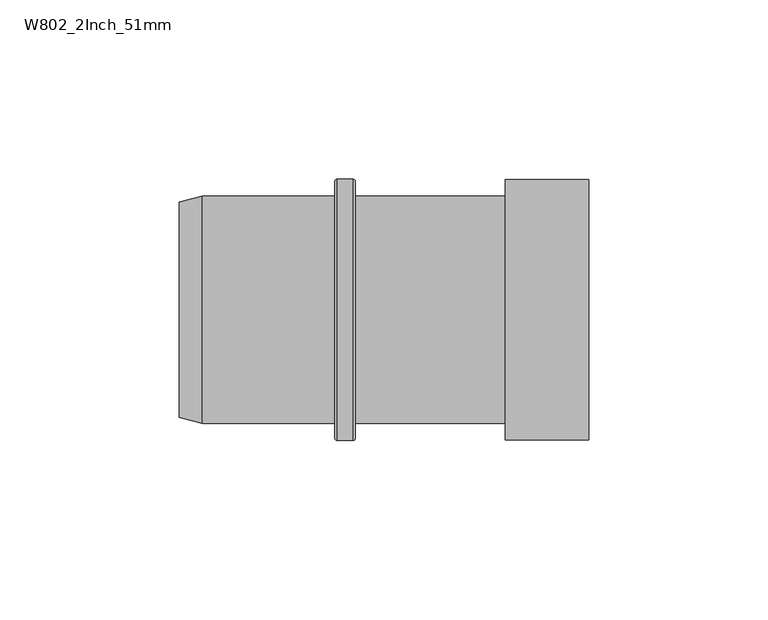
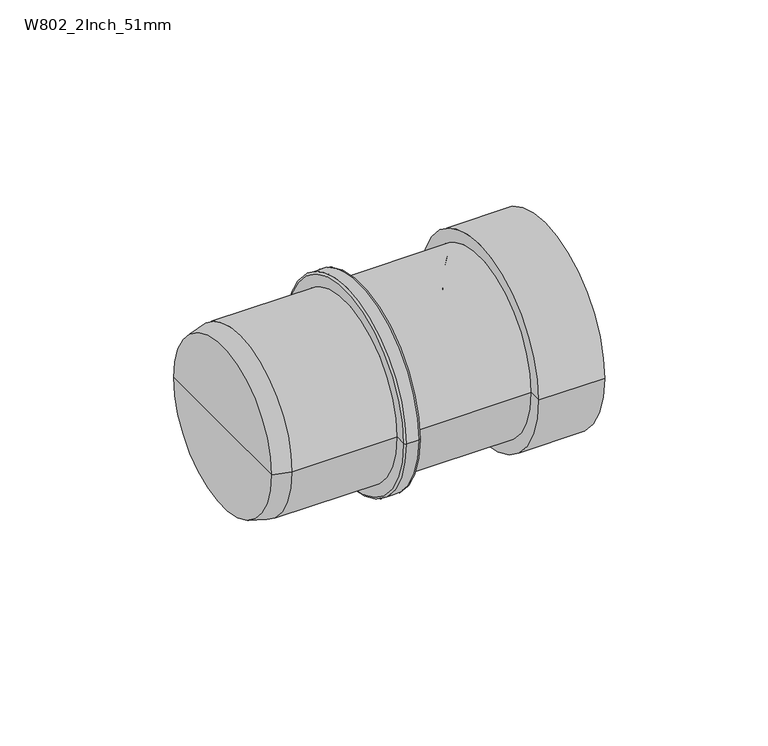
"""IFC4 building model written with IfcOpenShell, lengths in millimetres: pipe fitting geometry, Durapipe_PipeFitting_VulcatheneMechanical_HorizontalVerticalStressRelifUnit_W80 : W802_2Inch_51mm."""

from ifc_helpers import new_model, si_unit, point, frame, origin, place, context, project, spatial, polyline, circle_curve, ellipse_curve, trimmed, source, transform, mapped, element, save
from ifc_brep_helpers import plane_surface, cylinder_surface, revolved_surface, advanced_brep


def w802_2inch_51mm_177d126d(model_context):
    return source(origin(), model_context, "Body", "AdvancedBrep", [
        advanced_brep(
        [(70.6, -25.5522689, 0.0), (70.6, 35.7402689, 0.0), (70.6, 5.094, 0.0), (71.3319682, -26.2842371, 0.0), (71.3319682, 36.4722371, 0.0), (89.0, -26.2842371, 0.0), (89.0, 36.4722371, 0.0), (89.0, -31.2061121, 0.0), (89.0, 41.3941121, 0.0), (65.775, -31.2061121, 0.0), (65.775, 41.3941121, 0.0), (65.775, -26.656, 0.0), (65.775, 36.844, 0.0), (23.91875, -26.656, 0.0), (23.91875, 36.844, 0.0), (23.91875, -30.7449687, 0.0), (23.91875, 40.9329687, 0.0), (23.3115245, -31.3521942, 0.0), (23.3115245, 41.5401942, 0.0), (18.900197, -31.3521942, 0.0), (18.900197, 41.5401942, 0.0), (18.26725, -30.7192472, 0.0), (18.26725, 40.9072472, 0.0), (18.26725, -26.656, 0.0), (18.26725, 36.844, 0.0), (-18.759375, -26.656, 0.0), (-18.759375, 36.844, 0.0), (-25.109375, -24.9545226, 0.0), (-25.109375, 35.1425226, 0.0), (-25.109375, 5.094, 0.0)],
        [
            (0, 1, circle_curve(frame((70.6, 5.094, 0.0), z_axis=(1.0, 0.0, 0.0), x_axis=(0.0, 1.0, 0.0)), 30.6462689)),
            (1, 2),
            (2, 0),
            (1, 0, circle_curve(frame((70.6, 5.094, 0.0), z_axis=(1.0, 0.0, 0.0), x_axis=(0.0, 1.0, 0.0)), 30.6462689)),
            (3, 4, circle_curve(frame((71.3319682, 5.094, 0.0), z_axis=(1.0, 0.0, 0.0), x_axis=(0.0, 1.0, 0.0)), 31.3782371)),
            (4, 1, circle_curve(frame((71.3319682, 35.7402689, 0.0), z_axis=(0.0, 0.0, 1.0), x_axis=(1.0, 0.0, 0.0)), 0.7319682)),
            (0, 3, circle_curve(frame((71.3319682, -25.5522689, 0.0), z_axis=(0.0, 0.0, 1.0), x_axis=(1.0, 0.0, 0.0)), 0.7319682)),
            (4, 3, circle_curve(frame((71.3319682, 5.094, 0.0), z_axis=(1.0, 0.0, 0.0), x_axis=(0.0, 1.0, 0.0)), 31.3782371)),
            (5, 6, circle_curve(frame((89.0, 5.094, 0.0), z_axis=(1.0, 0.0, 0.0), x_axis=(0.0, 1.0, 0.0)), 31.3782371)),
            (6, 4),
            (3, 5),
            (6, 5, circle_curve(frame((89.0, 5.094, 0.0), z_axis=(1.0, 0.0, 0.0), x_axis=(0.0, 1.0, 0.0)), 31.3782371)),
            (7, 8, circle_curve(frame((89.0, 5.094, 0.0), z_axis=(1.0, 0.0, 0.0), x_axis=(0.0, 1.0, 0.0)), 36.3001121)),
            (8, 6),
            (5, 7),
            (8, 7, circle_curve(frame((89.0, 5.094, 0.0), z_axis=(1.0, 0.0, 0.0), x_axis=(0.0, 1.0, 0.0)), 36.3001121)),
            (9, 10, circle_curve(frame((65.775, 5.094, 0.0), z_axis=(1.0, 0.0, 0.0), x_axis=(0.0, 1.0, 0.0)), 36.3001121)),
            (10, 8),
            (7, 9),
            (10, 9, circle_curve(frame((65.775, 5.094, 0.0), z_axis=(1.0, 0.0, 0.0), x_axis=(0.0, 1.0, 0.0)), 36.3001121)),
            (11, 12, circle_curve(frame((65.775, 5.094, 0.0), z_axis=(1.0, 0.0, 0.0), x_axis=(0.0, 1.0, 0.0)), 31.75)),
            (12, 10),
            (9, 11),
            (12, 11, circle_curve(frame((65.775, 5.094, 0.0), z_axis=(1.0, 0.0, 0.0), x_axis=(0.0, 1.0, 0.0)), 31.75)),
            (13, 14, circle_curve(frame((23.91875, 5.094, 0.0), z_axis=(1.0, 0.0, 0.0), x_axis=(0.0, 1.0, 0.0)), 31.75)),
            (14, 12),
            (11, 13),
            (14, 13, circle_curve(frame((23.91875, 5.094, 0.0), z_axis=(1.0, 0.0, 0.0), x_axis=(0.0, 1.0, 0.0)), 31.75)),
            (15, 16, circle_curve(frame((23.91875, 5.094, 0.0), z_axis=(1.0, 0.0, 0.0), x_axis=(0.0, 1.0, 0.0)), 35.8389687)),
            (16, 14),
            (13, 15),
            (16, 15, circle_curve(frame((23.91875, 5.094, 0.0), z_axis=(1.0, 0.0, 0.0), x_axis=(0.0, 1.0, 0.0)), 35.8389687)),
            (17, 18, circle_curve(frame((23.3115245, 5.094, 0.0), z_axis=(1.0, 0.0, 0.0), x_axis=(0.0, 1.0, 0.0)), 36.4461942)),
            (18, 16, circle_curve(frame((23.3115245, 40.9329687, 0.0), z_axis=(0.0, 0.0, -1.0), x_axis=(1.0, 0.0, 0.0)), 0.6072255)),
            (15, 17, circle_curve(frame((23.3115245, -30.7449687, 0.0), z_axis=(0.0, 0.0, -1.0), x_axis=(1.0, 0.0, 0.0)), 0.6072255)),
            (18, 17, circle_curve(frame((23.3115245, 5.094, 0.0), z_axis=(1.0, 0.0, 0.0), x_axis=(0.0, 1.0, 0.0)), 36.4461942)),
            (19, 20, circle_curve(frame((18.900197, 5.094, 0.0), z_axis=(1.0, 0.0, 0.0), x_axis=(0.0, 1.0, 0.0)), 36.4461942)),
            (20, 18),
            (17, 19),
            (20, 19, circle_curve(frame((18.900197, 5.094, 0.0), z_axis=(1.0, 0.0, 0.0), x_axis=(0.0, 1.0, 0.0)), 36.4461942)),
            (21, 22, circle_curve(frame((18.26725, 5.094, 0.0), z_axis=(1.0, 0.0, 0.0), x_axis=(0.0, 1.0, 0.0)), 35.8132472)),
            (22, 20, circle_curve(frame((18.900197, 40.9072472, 0.0), z_axis=(0.0, 0.0, -1.0), x_axis=(1.0, 0.0, 0.0)), 0.632947)),
            (19, 21, circle_curve(frame((18.900197, -30.7192472, 0.0), z_axis=(0.0, 0.0, -1.0), x_axis=(1.0, 0.0, 0.0)), 0.632947)),
            (22, 21, circle_curve(frame((18.26725, 5.094, 0.0), z_axis=(1.0, 0.0, 0.0), x_axis=(0.0, 1.0, 0.0)), 35.8132472)),
            (23, 24, circle_curve(frame((18.26725, 5.094, 0.0), z_axis=(1.0, 0.0, 0.0), x_axis=(0.0, 1.0, 0.0)), 31.75)),
            (24, 22),
            (21, 23),
            (24, 23, circle_curve(frame((18.26725, 5.094, 0.0), z_axis=(1.0, 0.0, 0.0), x_axis=(0.0, 1.0, 0.0)), 31.75)),
            (25, 26, circle_curve(frame((-18.759375, 5.094, 0.0), z_axis=(1.0, 0.0, 0.0), x_axis=(0.0, 1.0, 0.0)), 31.75)),
            (26, 24),
            (23, 25),
            (26, 25, circle_curve(frame((-18.759375, 5.094, 0.0), z_axis=(1.0, 0.0, 0.0), x_axis=(0.0, 1.0, 0.0)), 31.75)),
            (27, 28, circle_curve(frame((-25.109375, 5.094, 0.0), z_axis=(1.0, 0.0, 0.0), x_axis=(0.0, 1.0, 0.0)), 30.0485226)),
            (28, 26),
            (25, 27),
            (28, 27, circle_curve(frame((-25.109375, 5.094, 0.0), z_axis=(1.0, 0.0, 0.0), x_axis=(0.0, 1.0, 0.0)), 30.0485226)),
            (29, 28),
            (27, 29),
        ],
        [
            plane_surface(frame((70.6, 5.094, 0.0), z_axis=(1.0, 0.0, 0.0), x_axis=(0.0, 1.0, 0.0))),
            revolved_surface(trimmed(ellipse_curve(frame((71.3319682, 35.7402689, 0.0), z_axis=(0.0, 0.0, -1.0), x_axis=(1.0, 0.0, 0.0)), 0.7319682, 0.7319682), [point((70.6, 35.7402689, 0.0))], [point((71.3319682, 36.4722371, 0.0))], True, "CARTESIAN"), (95.5453209, 5.094, 0.0), (-1.0, 0.0, 0.0)),
            revolved_surface(polyline([(71.3319682, 36.4722371, 0.0), (89.0, 36.4722371, 0.0)]), (95.5453209, 5.094, 0.0), (-1.0, 0.0, 0.0)),
            plane_surface(frame((89.0, 5.094, 0.0), z_axis=(1.0, 0.0, 0.0), x_axis=(0.0, 1.0, 0.0))),
            cylinder_surface(frame((95.5453209, 5.094, 0.0), z_axis=(-1.0, 0.0, 0.0), x_axis=(0.0, 1.0, 0.0)), 36.3001121),
            plane_surface(frame((65.775, 5.094, 0.0), z_axis=(-1.0, 0.0, 0.0), x_axis=(0.0, 1.0, 0.0))),
            cylinder_surface(frame((95.5453209, 5.094, 0.0), z_axis=(-1.0, 0.0, 0.0), x_axis=(0.0, 1.0, 0.0)), 31.75),
            plane_surface(frame((23.91875, 5.094, 0.0), z_axis=(1.0, 0.0, 0.0), x_axis=(0.0, 1.0, 0.0))),
            revolved_surface(trimmed(ellipse_curve(frame((23.3115245, 40.9329687, 0.0), z_axis=(0.0, 0.0, 1.0), x_axis=(1.0, 0.0, 0.0)), 0.6072255, 0.6072255), [point((23.91875, 40.9329687, 0.0))], [point((23.3115245, 41.5401942, 0.0))], True, "CARTESIAN"), (95.5453209, 5.094, 0.0), (-1.0, 0.0, 0.0)),
            cylinder_surface(frame((95.5453209, 5.094, 0.0), z_axis=(-1.0, 0.0, 0.0), x_axis=(0.0, 1.0, 0.0)), 36.4461942),
            revolved_surface(trimmed(ellipse_curve(frame((18.900197, 40.9072472, 0.0), z_axis=(0.0, 0.0, 1.0), x_axis=(1.0, 0.0, 0.0)), 0.632947, 0.632947), [point((18.900197, 41.5401942, 0.0))], [point((18.26725, 40.9072472, 0.0))], True, "CARTESIAN"), (95.5453209, 5.094, 0.0), (-1.0, 0.0, 0.0)),
            plane_surface(frame((18.26725, 5.094, 0.0), z_axis=(-1.0, 0.0, 0.0), x_axis=(0.0, 1.0, 0.0))),
            revolved_surface(polyline([(-18.759375, 36.844, 0.0), (-25.109375, 35.1425226, 0.0)]), (95.5453209, 5.094, 0.0), (-1.0, 0.0, 0.0)),
            plane_surface(frame((-25.109375, 5.094, 0.0), z_axis=(-1.0, 0.0, 0.0), x_axis=(0.0, 1.0, 0.0))),
        ],
        [
            (0, [[1, 2, 3]]),
            (0, [[4, -3, -2]]),
            (1, [[5, 6, -1, 7]]),
            (1, [[8, -7, -4, -6]]),
            (2, [[9, 10, -5, 11]]),
            (2, [[12, -11, -8, -10]]),
            (3, [[13, 14, -9, 15]]),
            (3, [[16, -15, -12, -14]]),
            (4, [[17, 18, -13, 19]]),
            (4, [[20, -19, -16, -18]]),
            (5, [[21, 22, -17, 23]]),
            (5, [[24, -23, -20, -22]]),
            (6, [[25, 26, -21, 27]]),
            (6, [[28, -27, -24, -26]]),
            (7, [[29, 30, -25, 31]]),
            (7, [[32, -31, -28, -30]]),
            (8, [[33, 34, -29, 35]]),
            (8, [[36, -35, -32, -34]]),
            (9, [[37, 38, -33, 39]]),
            (9, [[40, -39, -36, -38]]),
            (10, [[41, 42, -37, 43]]),
            (10, [[44, -43, -40, -42]]),
            (11, [[45, 46, -41, 47]]),
            (11, [[48, -47, -44, -46]]),
            (6, [[49, 50, -45, 51]]),
            (6, [[52, -51, -48, -50]]),
            (12, [[53, 54, -49, 55]]),
            (12, [[56, -55, -52, -54]]),
            (13, [[57, -53, 58]]),
            (13, [[-58, -56, -57]]),
        ],
    ),
    ])


if __name__ == "__main__":
    model = new_model("IFC4")
    model_context = context("Model", 3, world=origin())
    ifc_project = project(units=[si_unit("LENGTHUNIT", "METRE", prefix="MILLI")], contexts=[model_context])
    site = spatial("IfcSite", under=ifc_project)
    building = spatial("IfcBuilding", under=site)
    placement = place(None, origin())
    w802_2inch_51mm_shape = w802_2inch_51mm_177d126d(model_context)
    element("IfcPipeFitting", 1, ObjectType="Durapipe_PipeFitting_VulcatheneMechanical_HorizontalVerticalStressRelifUnit_W80 : W802_2Inch_51mm", at=placement, inside=building, context=model_context, shape_type="MappedRepresentation", body=[
        mapped(w802_2inch_51mm_shape, transform((0.0, 0.0, 0.0), x_axis=(1.0, 0.0, 0.0), y_axis=(0.0, 1.0, 0.0), z_axis=(0.0, 0.0, 1.0))),
    ])
    save(model, "model.ifc")
